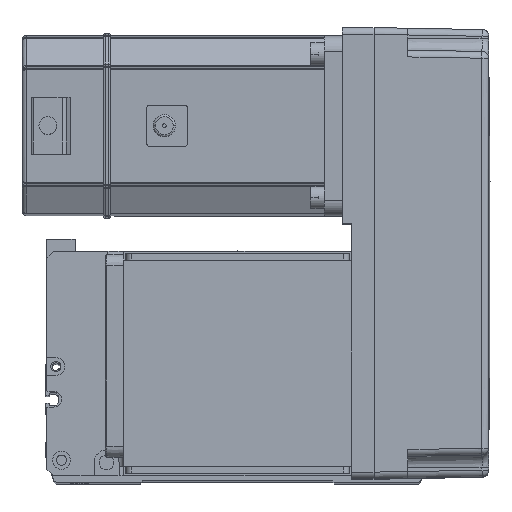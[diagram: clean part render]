
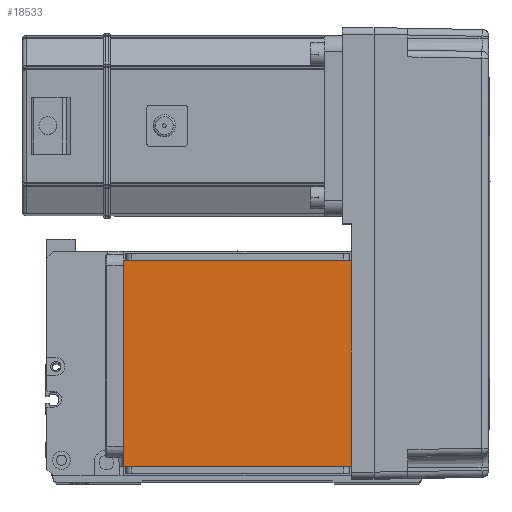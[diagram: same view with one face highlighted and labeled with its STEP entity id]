
A CAD part, top view. The second image highlights one B-rep face of the part: STEP entity #18533.
In plain terms, the highlighted planar face has unit normal (0, 0, 1).
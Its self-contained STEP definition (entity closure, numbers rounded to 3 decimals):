
#1778 = EDGE_CURVE ( 'NONE', #5533, #20140, #2840, .T. ) ;
#1871 = ORIENTED_EDGE ( 'NONE', *, *, #13998, .T. ) ;
#2840 = LINE ( 'NONE', #36486, #38324 ) ;
#5533 = VERTEX_POINT ( 'NONE', #6360 ) ;
#5688 = ORIENTED_EDGE ( 'NONE', *, *, #48958, .F. ) ;
#6360 = CARTESIAN_POINT ( 'NONE',  ( -50.5, 111.5, 115. ) ) ;
#9738 = FACE_OUTER_BOUND ( 'NONE', #14865, .T. ) ;
#10132 = DIRECTION ( 'NONE',  ( -1., 0., 0. ) ) ;
#13998 = EDGE_CURVE ( 'NONE', #17598, #44046, #22115, .T. ) ;
#14535 = CARTESIAN_POINT ( 'NONE',  ( 50.5, 122., 115. ) ) ;
#14865 = EDGE_LOOP ( 'NONE', ( #5688, #46935, #38503, #1871 ) ) ;
#15012 = PLANE ( 'NONE',  #36190 ) ;
#15092 = DIRECTION ( 'NONE',  ( 0., -1., 0. ) ) ;
#15364 = VECTOR ( 'NONE', #53207, 1000. ) ;
#17343 = CARTESIAN_POINT ( 'NONE',  ( 50.5, 111.5, 115. ) ) ;
#17598 = VERTEX_POINT ( 'NONE', #41535 ) ;
#18533 = ADVANCED_FACE ( 'NONE', ( #9738 ), #15012, .T. ) ;
#19518 = DIRECTION ( 'NONE',  ( 0., 0., 1. ) ) ;
#20140 = VERTEX_POINT ( 'NONE', #30146 ) ;
#22115 = LINE ( 'NONE', #14535, #15364 ) ;
#22570 = LINE ( 'NONE', #30797, #55470 ) ;
#24145 = CARTESIAN_POINT ( 'NONE',  ( -70.004, 111.5, 115. ) ) ;
#25251 = DIRECTION ( 'NONE',  ( 1., 0., 0. ) ) ;
#30146 = CARTESIAN_POINT ( 'NONE',  ( -50.5, 20., 115. ) ) ;
#30797 = CARTESIAN_POINT ( 'NONE',  ( -70.004, 20., 115. ) ) ;
#36190 = AXIS2_PLACEMENT_3D ( 'NONE', #40496, #19518, #36406 ) ;
#36406 = DIRECTION ( 'NONE',  ( 1., 0., 0. ) ) ;
#36486 = CARTESIAN_POINT ( 'NONE',  ( -50.5, 122., 115. ) ) ;
#38324 = VECTOR ( 'NONE', #15092, 1000. ) ;
#38503 = ORIENTED_EDGE ( 'NONE', *, *, #46354, .F. ) ;
#40496 = CARTESIAN_POINT ( 'NONE',  ( 0., 0., 115. ) ) ;
#41535 = CARTESIAN_POINT ( 'NONE',  ( 50.5, 20., 115. ) ) ;
#43719 = LINE ( 'NONE', #24145, #49782 ) ;
#44046 = VERTEX_POINT ( 'NONE', #17343 ) ;
#46354 = EDGE_CURVE ( 'NONE', #17598, #20140, #22570, .T. ) ;
#46935 = ORIENTED_EDGE ( 'NONE', *, *, #1778, .T. ) ;
#48958 = EDGE_CURVE ( 'NONE', #5533, #44046, #43719, .T. ) ;
#49782 = VECTOR ( 'NONE', #25251, 1000. ) ;
#53207 = DIRECTION ( 'NONE',  ( 0., 1., 0. ) ) ;
#55470 = VECTOR ( 'NONE', #10132, 1000. ) ;
